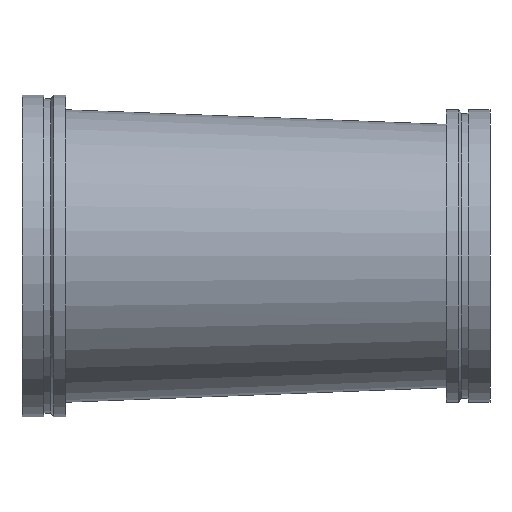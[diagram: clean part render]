
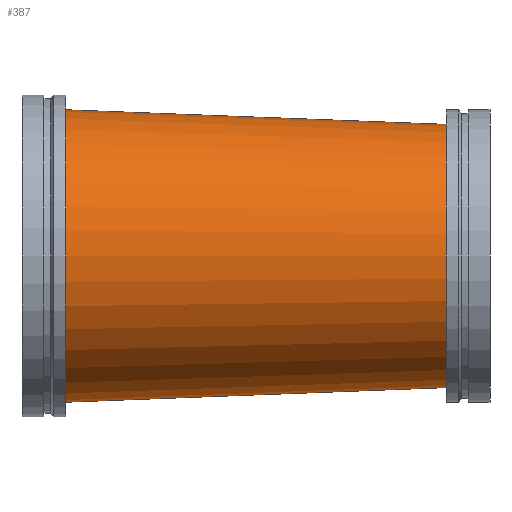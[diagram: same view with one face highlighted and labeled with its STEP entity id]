
A CAD part, front view. The second image highlights one B-rep face of the part: STEP entity #387.
In plain terms, the highlighted free-form (B-spline) face has degree [1, 2] with [2, 9] control points.
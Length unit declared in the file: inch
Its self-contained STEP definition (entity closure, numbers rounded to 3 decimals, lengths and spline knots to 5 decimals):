
#46=B_SPLINE_CURVE_WITH_KNOTS('',1,(#747,#748),.UNSPECIFIED.,.F.,.F.,(2,
2),(-2.60389,-0.00006),.UNSPECIFIED.);
#48=(
BOUNDED_SURFACE()
B_SPLINE_SURFACE(1,2,((#729,#730,#731,#732,#733,#734,#735,#736,#737),(#738,
#739,#740,#741,#742,#743,#744,#745,#746)),.UNSPECIFIED.,.F.,.T.,.F.)
B_SPLINE_SURFACE_WITH_KNOTS((2,2),(3,2,2,2,3),(-0.0384,2.6384),
(-3.14159,-1.5708,0.,1.5708,3.14159),
 .UNSPECIFIED.)
GEOMETRIC_REPRESENTATION_ITEM()
RATIONAL_B_SPLINE_SURFACE(((1.,0.707,1.,0.707,1.,
0.707,1.,0.707,1.),(1.,0.707,1.,0.707,
1.,0.707,1.,0.707,1.)))
REPRESENTATION_ITEM('')
SURFACE()
);
#98=FACE_OUTER_BOUND('',#120,.T.);
#120=EDGE_LOOP('',(#321,#322,#323,#324,#325,#326));
#129=CIRCLE('',#415,9.);
#130=CIRCLE('',#416,9.);
#153=CIRCLE('',#450,10.);
#154=CIRCLE('',#451,10.);
#166=VERTEX_POINT('',#628);
#167=VERTEX_POINT('',#629);
#190=VERTEX_POINT('',#695);
#191=VERTEX_POINT('',#696);
#203=EDGE_CURVE('',#166,#167,#129,.T.);
#204=EDGE_CURVE('',#167,#166,#130,.T.);
#235=EDGE_CURVE('',#190,#191,#153,.T.);
#236=EDGE_CURVE('',#191,#190,#154,.T.);
#243=EDGE_CURVE('',#167,#191,#46,.T.);
#321=ORIENTED_EDGE('',*,*,#203,.T.);
#322=ORIENTED_EDGE('',*,*,#243,.T.);
#323=ORIENTED_EDGE('',*,*,#236,.T.);
#324=ORIENTED_EDGE('',*,*,#235,.T.);
#325=ORIENTED_EDGE('',*,*,#243,.F.);
#326=ORIENTED_EDGE('',*,*,#204,.T.);
#387=ADVANCED_FACE('',(#98),#48,.F.);
#415=AXIS2_PLACEMENT_3D('',#630,#486,#487);
#416=AXIS2_PLACEMENT_3D('',#631,#488,#489);
#450=AXIS2_PLACEMENT_3D('',#697,#564,#565);
#451=AXIS2_PLACEMENT_3D('',#698,#566,#567);
#486=DIRECTION('center_axis',(-1.,0.,0.));
#487=DIRECTION('ref_axis',(0.,-1.,0.));
#488=DIRECTION('center_axis',(-1.,0.,0.));
#489=DIRECTION('ref_axis',(0.,-1.,0.));
#564=DIRECTION('center_axis',(1.,0.,0.));
#565=DIRECTION('ref_axis',(0.,1.,0.));
#566=DIRECTION('center_axis',(1.,0.,0.));
#567=DIRECTION('ref_axis',(0.,1.,0.));
#628=CARTESIAN_POINT('',(29.,-10.,0.));
#629=CARTESIAN_POINT('',(29.,-1.01327,8.99999));
#630=CARTESIAN_POINT('Origin',(29.,-1.,0.));
#631=CARTESIAN_POINT('Origin',(29.,-1.,0.));
#695=CARTESIAN_POINT('',(3.,10.,0.));
#696=CARTESIAN_POINT('',(3.,-0.01475,9.99999));
#697=CARTESIAN_POINT('Origin',(3.,0.,0.));
#698=CARTESIAN_POINT('Origin',(3.,0.,0.));
#729=CARTESIAN_POINT('Ctrl Pts',(2.61595,0.,
10.01476));
#730=CARTESIAN_POINT('Ctrl Pts',(2.2319,-10.,10.01476));
#731=CARTESIAN_POINT('Ctrl Pts',(2.2319,-10.,0.));
#732=CARTESIAN_POINT('Ctrl Pts',(2.2319,-10.,-10.01476));
#733=CARTESIAN_POINT('Ctrl Pts',(2.61595,0.,
-10.01476));
#734=CARTESIAN_POINT('Ctrl Pts',(3.,10.,-10.01476));
#735=CARTESIAN_POINT('Ctrl Pts',(3.,10.,0.));
#736=CARTESIAN_POINT('Ctrl Pts',(3.,10.,10.01476));
#737=CARTESIAN_POINT('Ctrl Pts',(2.61595,0.,
10.01476));
#738=CARTESIAN_POINT('Ctrl Pts',(29.34463,-1.02651,8.98674));
#739=CARTESIAN_POINT('Ctrl Pts',(29.,-10.,8.98674));
#740=CARTESIAN_POINT('Ctrl Pts',(29.,-10.,0.));
#741=CARTESIAN_POINT('Ctrl Pts',(29.,-10.,-8.98674));
#742=CARTESIAN_POINT('Ctrl Pts',(29.34463,-1.02651,-8.98674));
#743=CARTESIAN_POINT('Ctrl Pts',(29.68925,7.94698,-8.98674));
#744=CARTESIAN_POINT('Ctrl Pts',(29.68925,7.94698,0.));
#745=CARTESIAN_POINT('Ctrl Pts',(29.68925,7.94698,8.98674));
#746=CARTESIAN_POINT('Ctrl Pts',(29.34463,-1.02651,8.98674));
#747=CARTESIAN_POINT('Ctrl Pts',(29.,-1.01327,8.99999));
#748=CARTESIAN_POINT('Ctrl Pts',(3.,-0.01475,9.99999));
